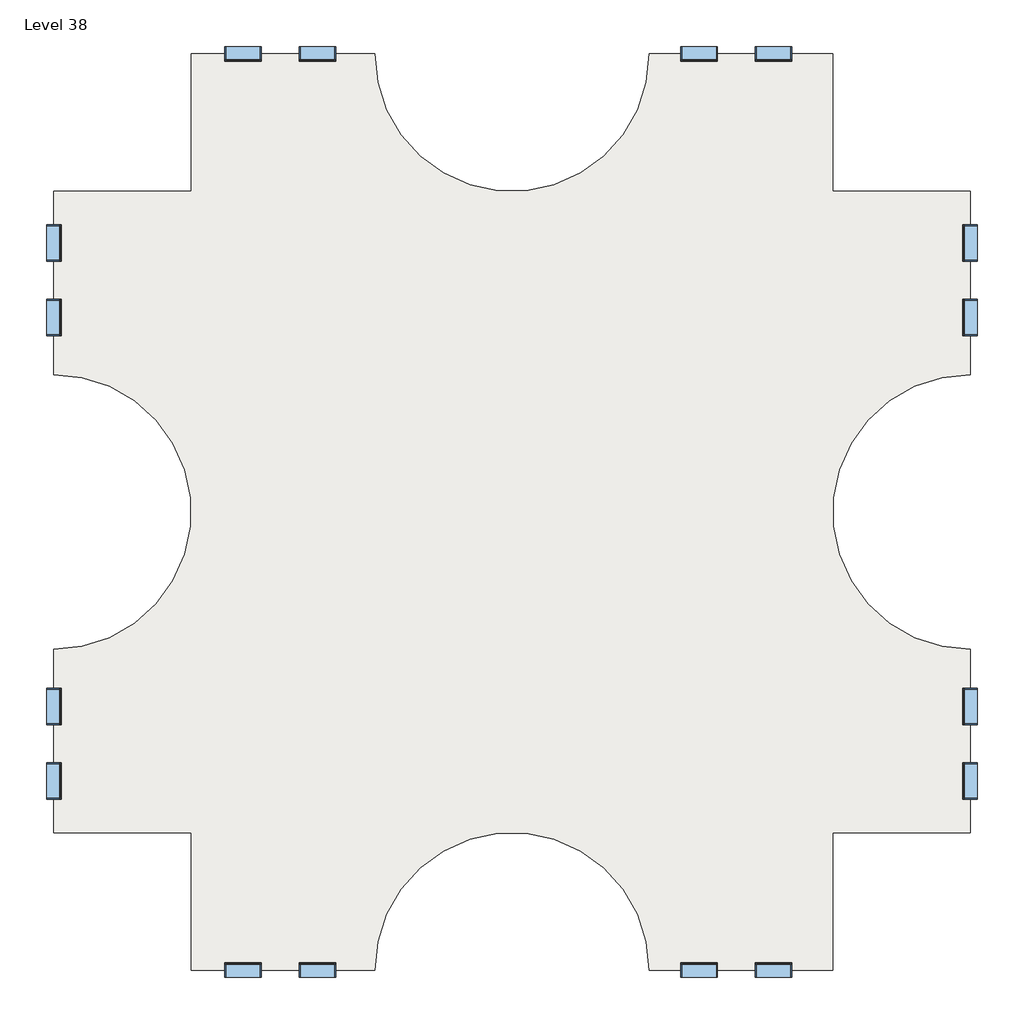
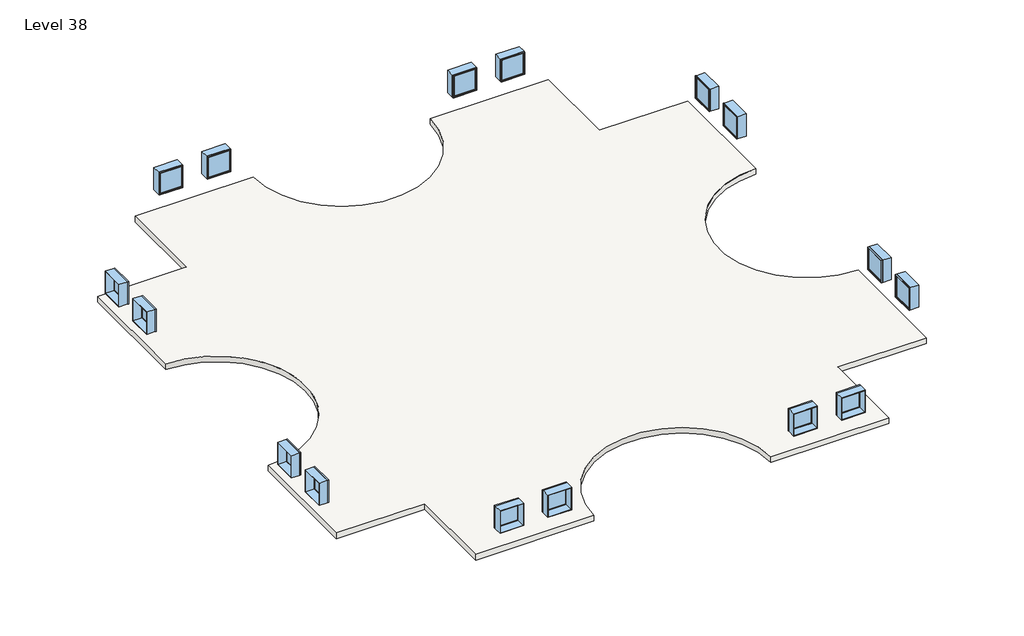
# One storey: 16 windows, 3 slabs.
"""IFC4 building model written with IfcOpenShell, lengths in millimetres."""

import ifcopenshell
import ifcopenshell.guid

model = None  # the IFC model being written
_history = None  # IfcOwnerHistory: only IFC2X3 demands one
_inside = {}  # id of a spatial element -> (the spatial element, [elements in it])
_under = {}  # id of a project, library or spatial element -> (it, [spatial elements below it])
_declared = {}  # id of a project -> (the project, [libraries it declares])
_typed = {}  # id of a type object -> (the type object, [elements of that type])
_made_of = {}  # id of a material, layer set ... -> (it, [elements and type objects made of it])


def new_model(schema):
    """Start an empty IFC model of exactly this schema.

    Asked for "IFC4X3", IfcOpenShell would pick the latest addendum, in which some entities
    have other attributes; the version numbers below select the first issue.
    IFC2X3 requires an IfcOwnerHistory on every rooted entity: one is made here for all.
    """
    global model, _history
    if schema == "IFC4X3":
        model = ifcopenshell.file(schema_version=(4, 3, 0, 0))
    else:
        model = ifcopenshell.file(schema=schema)
    _inside.clear()
    _under.clear()
    _declared.clear()
    _typed.clear()
    _made_of.clear()
    _history = None
    if model.schema == "IFC2X3":
        org = make("IfcOrganization", Name="unknown")
        user = make(
            "IfcPersonAndOrganization",
            ThePerson=make("IfcPerson", FamilyName="unknown"),
            TheOrganization=org,
        )
        app = make(
            "IfcApplication",
            ApplicationDeveloper=org,
            Version="unknown",
            ApplicationFullName="unknown",
            ApplicationIdentifier="unknown",
        )
        _history = make(
            "IfcOwnerHistory",
            OwningUser=user,
            OwningApplication=app,
            ChangeAction="ADDED",
            CreationDate=0,
        )
    return model


def make(cls, **values):
    """One entity of the class cls with the attributes given. An attribute that is None is left unset."""
    return model.create_entity(
        cls, **{name: value for name, value in values.items() if value is not None}
    )


def rooted(cls, **values):
    """An entity with a GlobalId (a new one), such as an element, a storey or a relation."""
    return make(cls, GlobalId=ifcopenshell.guid.new(), OwnerHistory=_history, **values)


def si_unit(unit_type, name, prefix=None):
    """IfcSIUnit, for example si_unit("LENGTHUNIT", "METRE", prefix="MILLI")."""
    return make("IfcSIUnit", UnitType=unit_type, Prefix=prefix, Name=name)


def assignment(units):
    """IfcUnitAssignment: the units of a project."""
    return None if units is None else make("IfcUnitAssignment", Units=units)


def point(xyz):
    """IfcCartesianPoint."""
    return None if xyz is None else make("IfcCartesianPoint", Coordinates=xyz)


def direction(xyz):
    """IfcDirection."""
    return None if xyz is None else make("IfcDirection", DirectionRatios=xyz)


def frame(location, z_axis=None, x_axis=None):
    """IfcAxis2Placement3D, a coordinate frame: its origin and axes. An axis left out is left unset."""
    return make(
        "IfcAxis2Placement3D",
        Location=point(location),
        Axis=direction(z_axis),
        RefDirection=direction(x_axis),
    )


def frame_2d(location, x_axis=None):
    """IfcAxis2Placement2D, a coordinate frame in the plane: its origin and x axis."""
    return make(
        "IfcAxis2Placement2D", Location=point(location), RefDirection=direction(x_axis)
    )


def origin():
    """The frame at (0, 0, 0) with its axes left unset."""
    return frame((0.0, 0.0, 0.0))


def place(relative_to, where):
    """IfcLocalPlacement: puts the frame where relative to a parent placement (None: the world)."""
    return make(
        "IfcLocalPlacement", PlacementRelTo=relative_to, RelativePlacement=where
    )


def context(
    kind, dimensions, precision=None, world=None, true_north=None, identifier=None
):
    """IfcGeometricRepresentationContext, for example the 3D "Model" context."""
    return make(
        "IfcGeometricRepresentationContext",
        ContextIdentifier=identifier,
        ContextType=kind,
        CoordinateSpaceDimension=dimensions,
        Precision=precision,
        WorldCoordinateSystem=world,
        TrueNorth=true_north,
    )


def project(units=None, contexts=None):
    """IfcProject with its units and contexts."""
    return rooted(
        "IfcProject",
        Name="project",
        RepresentationContexts=contexts,
        UnitsInContext=assignment(units),
    )


def spatial(cls, under=None, at=None, **own):
    """A site, building, storey or space (cls), placed at a placement, below another one or the project."""
    s = rooted(cls, ObjectPlacement=at, **own)
    if under is not None:
        _under.setdefault(under.id(), (under, []))[1].append(s)
    return s


def polyline(points):
    """IfcPolyline through the points."""
    return make("IfcPolyline", Points=[point(p) for p in points])


def circle_curve(where, radius):
    """IfcCircle in the frame where."""
    return make("IfcCircle", Position=where, Radius=radius)


def trimmed(basis, trim1, trim2, sense, master):
    """IfcTrimmedCurve: the piece of a basis curve between two trims."""
    return make(
        "IfcTrimmedCurve",
        BasisCurve=basis,
        Trim1=trim1,
        Trim2=trim2,
        SenseAgreement=sense,
        MasterRepresentation=master,
    )


def segment(curve, same_sense, transition):
    """IfcCompositeCurveSegment."""
    return make(
        "IfcCompositeCurveSegment",
        Transition=transition,
        SameSense=same_sense,
        ParentCurve=curve,
    )


def composite_curve(segments, self_intersect=None):
    """IfcCompositeCurve: segments joined end to end."""
    return make("IfcCompositeCurve", Segments=segments, SelfIntersect=self_intersect)


def outline(outer, holes=None, kind="AREA"):
    """IfcArbitraryClosedProfileDef: a profile drawn as a closed curve; with holes, ...WithVoids."""
    if holes is None:
        return make("IfcArbitraryClosedProfileDef", ProfileType=kind, OuterCurve=outer)
    return make(
        "IfcArbitraryProfileDefWithVoids",
        ProfileType=kind,
        OuterCurve=outer,
        InnerCurves=holes,
    )


def extrude(swept, where, along, depth):
    """IfcExtrudedAreaSolid: the profile swept, set in the frame where, extruded along a direction by depth."""
    return make(
        "IfcExtrudedAreaSolid",
        SweptArea=swept,
        Position=where,
        ExtrudedDirection=direction(along),
        Depth=depth,
    )


def shape(context_of_items, identifier, shape_type, items):
    """IfcShapeRepresentation: the items that make up one representation, for example the "Body"."""
    return make(
        "IfcShapeRepresentation",
        ContextOfItems=context_of_items,
        RepresentationIdentifier=identifier,
        RepresentationType=shape_type,
        Items=items,
    )


def source(mapping_origin, context_of_items, identifier, shape_type, items):
    """IfcRepresentationMap: a shape defined once, which mapped items show again and again."""
    return make(
        "IfcRepresentationMap",
        MappingOrigin=mapping_origin,
        MappedRepresentation=shape(context_of_items, identifier, shape_type, items),
    )


def transform(
    local_origin,
    x_axis=None,
    y_axis=None,
    z_axis=None,
    scale=None,
    scale2=None,
    scale3=None,
    uniform=True,
):
    """IfcCartesianTransformationOperator3D, or its non-uniform kind. x_axis, y_axis, z_axis: its Axis1, 2, 3."""
    if uniform:
        return make(
            "IfcCartesianTransformationOperator3D",
            Axis1=direction(x_axis),
            Axis2=direction(y_axis),
            LocalOrigin=point(local_origin),
            Scale=scale,
            Axis3=direction(z_axis),
        )
    return make(
        "IfcCartesianTransformationOperator3DnonUniform",
        Axis1=direction(x_axis),
        Axis2=direction(y_axis),
        LocalOrigin=point(local_origin),
        Scale=scale,
        Axis3=direction(z_axis),
        Scale2=scale2,
        Scale3=scale3,
    )


def mapped(mapping_source, mapping_target):
    """IfcMappedItem: shows the shape of a source again, moved by a transform."""
    return make(
        "IfcMappedItem", MappingSource=mapping_source, MappingTarget=mapping_target
    )


def made_of(thing, what):
    """Note that an element or type object is made of a material, layer set ...; save() writes the relation."""
    if what is not None:
        _made_of.setdefault(what.id(), (what, []))[1].append(thing)
    return thing


def element(
    cls,
    number,
    at=None,
    inside=None,
    cuts=None,
    type_object=None,
    material=None,
    context=None,
    identifier="Body",
    shape_type=None,
    held_by="IfcProductDefinitionShape",
    body=None,
    shapes=None,
    **own,
):
    """One element of the class cls, such as IfcWall. Its Tag is "e" and its number.

    at: its placement. inside: the storey or other place that contains it. cuts: it is an
    opening in that element (IfcRelVoidsElement). A single representation is given by context,
    identifier, shape_type and body (its items); several are given by shapes. held_by: the class
    of the entity that holds the representations. save() writes the other relations.
    """
    e = rooted(cls, Tag="e%d" % number, ObjectPlacement=at, **own)
    if body is not None:
        shapes = [shape(context, identifier, shape_type, body)]
    if shapes is not None:
        e.Representation = make(held_by, Representations=shapes)
    if inside is not None:
        _inside.setdefault(inside.id(), (inside, []))[1].append(e)
    if cuts is not None:
        rooted(
            "IfcRelVoidsElement", RelatingBuildingElement=cuts, RelatedOpeningElement=e
        )
    if type_object is not None:
        _typed.setdefault(type_object.id(), (type_object, []))[1].append(e)
    return made_of(e, material)


def aggregate(whole, parts):
    """IfcRelAggregates: a whole, such as a stair, and the parts it consists of."""
    return rooted("IfcRelAggregates", RelatingObject=whole, RelatedObjects=parts)


def save(model, path):
    """Write the relations noted so far, then the file.

    IfcRelAggregates (storeys below a building ...), IfcRelContainedInSpatialStructure (elements
    in a storey), IfcRelDefinesByType, IfcRelAssociatesMaterial and IfcRelDeclares: one each for
    every whole, place, type object, material and project.
    """
    for whole, parts in _under.values():
        aggregate(whole, parts)
    for where, things in _inside.values():
        rooted(
            "IfcRelContainedInSpatialStructure",
            RelatedElements=things,
            RelatingStructure=where,
        )
    for kind, things in _typed.values():
        rooted("IfcRelDefinesByType", RelatedObjects=things, RelatingType=kind)
    for what, things in _made_of.values():
        rooted("IfcRelAssociatesMaterial", RelatedObjects=things, RelatingMaterial=what)
    for by, libraries in _declared.values():
        rooted("IfcRelDeclares", RelatingContext=by, RelatedDefinitions=libraries)
    model.write(path)


def window_d0035ecf(model_context):
    return source(origin(), model_context, "Body", "SweptSolid", [
        extrude(outline(polyline([(508.0, 200.025), (-584.2, 200.025), (-584.2, 212.725), (508.0, 212.725), (508.0, 200.025)])), frame((0.0, 0.0, 977.9), z_axis=(0.0, 0.0, 1.0), x_axis=(1.0, 0.0, 0.0)), (0.0, 0.0, 1.0), 1092.2),
        extrude(outline(polyline([(2114.55, -628.65), (933.45, -628.65), (933.45, 552.45), (2114.55, 552.45), (2114.55, -628.65)]), holes=[polyline([(2070.1, -584.2), (2070.1, 508.0), (977.9, 508.0), (977.9, -584.2), (2070.1, -584.2)])]), frame((0.0, 184.15, 0.0), z_axis=(0.0, 1.0, 0.0), x_axis=(0.0, 0.0, 1.0)), (0.0, 0.0, 1.0), 44.45),
        extrude(outline(polyline([(2133.6, -647.7), (914.4, -647.7), (914.4, 571.5), (2133.6, 571.5), (2133.6, -647.7)]), holes=[polyline([(2101.85, -615.95), (2101.85, 539.75), (946.15, 539.75), (946.15, -615.95), (2101.85, -615.95)])]), frame((0.0, -247.65, 0.0), z_axis=(0.0, 1.0, 0.0), x_axis=(0.0, 0.0, 1.0)), (0.0, 0.0, 1.0), 431.8),
        extrude(outline(polyline([(2133.6, 571.5), (2133.6, -647.7), (914.4, -647.7), (914.4, 571.5), (2133.6, 571.5)]), holes=[polyline([(2114.55, 552.45), (933.45, 552.45), (933.45, -628.65), (2114.55, -628.65), (2114.55, 552.45)])]), frame((0.0, 184.15, 0.0), z_axis=(0.0, 1.0, 0.0), x_axis=(0.0, 0.0, 1.0)), (0.0, 0.0, 1.0), 63.5),
    ])


def window_d434eb62(model_context):
    return source(origin(), model_context, "Body", "SweptSolid", [
        extrude(outline(polyline([(508.0, -200.025), (508.0, -212.725), (-584.2, -212.725), (-584.2, -200.025), (508.0, -200.025)])), frame((0.0, 0.0, 977.9), z_axis=(0.0, 0.0, 1.0), x_axis=(1.0, 0.0, 0.0)), (0.0, 0.0, 1.0), 1092.2),
        extrude(outline(polyline([(2114.55, -628.65), (933.45, -628.65), (933.45, 552.45), (2114.55, 552.45), (2114.55, -628.65)]), holes=[polyline([(2070.1, -584.2), (2070.1, 508.0), (977.9, 508.0), (977.9, -584.2), (2070.1, -584.2)])]), frame((0.0, -228.6, 0.0), z_axis=(0.0, 1.0, 0.0), x_axis=(0.0, 0.0, 1.0)), (0.0, 0.0, 1.0), 44.45),
        extrude(outline(polyline([(2133.6, -647.7), (914.4, -647.7), (914.4, 571.5), (2133.6, 571.5), (2133.6, -647.7)]), holes=[polyline([(2101.85, -615.95), (2101.85, 539.75), (946.15, 539.75), (946.15, -615.95), (2101.85, -615.95)])]), frame((0.0, -184.15, 0.0), z_axis=(0.0, 1.0, 0.0), x_axis=(0.0, 0.0, 1.0)), (0.0, 0.0, 1.0), 431.8),
        extrude(outline(polyline([(2133.6, 571.5), (2133.6, -647.7), (914.4, -647.7), (914.4, 571.5), (2133.6, 571.5)]), holes=[polyline([(2114.55, 552.45), (933.45, 552.45), (933.45, -628.65), (2114.55, -628.65), (2114.55, 552.45)])]), frame((0.0, -247.65, 0.0), z_axis=(0.0, 1.0, 0.0), x_axis=(0.0, 0.0, 1.0)), (0.0, 0.0, 1.0), 63.5),
    ])


model = new_model("IFC4")

# Units and contexts
model_context = context("Model", 3, world=origin())
ifc_project = project(units=[si_unit("LENGTHUNIT", "METRE", prefix="MILLI")], contexts=[model_context])

# Site, building, storey
site = spatial("IfcSite", under=ifc_project)
building = spatial("IfcBuilding", under=site)
storey = spatial("IfcBuildingStorey", under=building, Name="Level 38", Elevation=112776.0)

# Slabs
placement = place(None, origin())
element("IfcSlab", 1, ObjectType="Generic - 12\"", at=placement, inside=storey, context=model_context, shape_type="SweptSolid", body=[
    extrude(outline(composite_curve([segment(polyline([(-7150.3629456, 4479.6634547), (-7150.3629456, 9051.6634547), (-1054.3629456, 9051.6634547)]), True, "CONTINUOUS"), segment(trimmed(circle_curve(frame_2d((3517.6370544, 9051.6634547)), 4572.0), [point((-1054.3629456, 9051.6634547))], [point((8089.6370544, 9051.6634547))], True, "CARTESIAN"), True, "CONTINUOUS"), segment(polyline([(8089.6370544, 9051.6634547), (14185.6370544, 9051.6634547), (14185.6370544, 4479.6634547), (18757.6370544, 4479.6634547), (18757.6370544, -1616.3365453)]), True, "CONTINUOUS"), segment(trimmed(circle_curve(frame_2d((18757.6370544, -6188.3365453)), 4572.0), [point((18757.6370544, -1616.3365453))], [point((18757.6370544, -10760.3365453))], True, "CARTESIAN"), True, "CONTINUOUS"), segment(polyline([(18757.6370544, -10760.3365453), (18757.6370544, -16856.3365453), (14185.6370544, -16856.3365453), (14185.6370544, -21428.3365453), (8089.6370544, -21428.3365453)]), True, "CONTINUOUS"), segment(trimmed(circle_curve(frame_2d((3517.6370544, -21428.3365453)), 4572.0), [point((8089.6370544, -21428.3365453))], [point((-1054.3629456, -21428.3365453))], True, "CARTESIAN"), True, "CONTINUOUS"), segment(polyline([(-1054.3629456, -21428.3365453), (-7150.3629456, -21428.3365453), (-7150.3629456, -16856.3365453), (-11722.3629456, -16856.3365453), (-11722.3629456, -10760.3365453)]), True, "CONTINUOUS"), segment(trimmed(circle_curve(frame_2d((-11722.3629456, -6188.3365453)), 4572.0), [point((-11722.3629456, -10760.3365453))], [point((-11722.3629456, -1616.3365453))], True, "CARTESIAN"), True, "CONTINUOUS"), segment(polyline([(-11722.3629456, -1616.3365453), (-11722.3629456, 4479.6634547), (-7150.3629456, 4479.6634547)]), True, "CONTINUOUS")], self_intersect=False)), frame((0.0, 0.0, 112471.2), z_axis=(0.0, 0.0, 1.0), x_axis=(1.0, 0.0, 0.0)), (0.0, 0.0, 1.0), 304.8),
])
element("IfcSlab", 2, ObjectType="Generic - 12\"", at=placement, inside=storey, context=model_context, shape_type="SweptSolid", body=[
    extrude(outline(composite_curve([segment(polyline([(-7150.3629456, 4479.6634547), (-7150.3629456, 9051.6634547), (-1054.3629456, 9051.6634547)]), True, "CONTINUOUS"), segment(trimmed(circle_curve(frame_2d((3517.6370544, 9051.6634547)), 4572.0), [point((-1054.3629456, 9051.6634547))], [point((8089.6370544, 9051.6634547))], True, "CARTESIAN"), True, "CONTINUOUS"), segment(polyline([(8089.6370544, 9051.6634547), (14185.6370544, 9051.6634547), (14185.6370544, 4479.6634547), (18757.6370544, 4479.6634547), (18757.6370544, -1616.3365453)]), True, "CONTINUOUS"), segment(trimmed(circle_curve(frame_2d((18757.6370544, -6188.3365453)), 4572.0), [point((18757.6370544, -1616.3365453))], [point((18757.6370544, -10760.3365453))], True, "CARTESIAN"), True, "CONTINUOUS"), segment(polyline([(18757.6370544, -10760.3365453), (18757.6370544, -16856.3365453), (14185.6370544, -16856.3365453), (14185.6370544, -21428.3365453), (8089.6370544, -21428.3365453)]), True, "CONTINUOUS"), segment(trimmed(circle_curve(frame_2d((3517.6370544, -21428.3365453)), 4572.0), [point((8089.6370544, -21428.3365453))], [point((-1054.3629456, -21428.3365453))], True, "CARTESIAN"), True, "CONTINUOUS"), segment(polyline([(-1054.3629456, -21428.3365453), (-7150.3629456, -21428.3365453), (-7150.3629456, -16856.3365453), (-11722.3629456, -16856.3365453), (-11722.3629456, -10760.3365453)]), True, "CONTINUOUS"), segment(trimmed(circle_curve(frame_2d((-11722.3629456, -6188.3365453)), 4572.0), [point((-11722.3629456, -10760.3365453))], [point((-11722.3629456, -1616.3365453))], True, "CARTESIAN"), True, "CONTINUOUS"), segment(polyline([(-11722.3629456, -1616.3365453), (-11722.3629456, 4479.6634547), (-7150.3629456, 4479.6634547)]), True, "CONTINUOUS")], self_intersect=False)), frame((0.0, 0.0, 112471.2), z_axis=(0.0, 0.0, 1.0), x_axis=(1.0, 0.0, 0.0)), (0.0, 0.0, 1.0), 304.8),
])
element("IfcSlab", 3, ObjectType="Generic - 12\"", at=placement, inside=storey, context=model_context, shape_type="SweptSolid", body=[
    extrude(outline(composite_curve([segment(polyline([(-7150.3629456, 4479.6634547), (-7150.3629456, 9051.6634547), (-1054.3629456, 9051.6634547)]), True, "CONTINUOUS"), segment(trimmed(circle_curve(frame_2d((3517.6370544, 9051.6634547)), 4572.0), [point((-1054.3629456, 9051.6634547))], [point((8089.6370544, 9051.6634547))], True, "CARTESIAN"), True, "CONTINUOUS"), segment(polyline([(8089.6370544, 9051.6634547), (14185.6370544, 9051.6634547), (14185.6370544, 4479.6634547), (18757.6370544, 4479.6634547), (18757.6370544, -1616.3365453)]), True, "CONTINUOUS"), segment(trimmed(circle_curve(frame_2d((18757.6370544, -6188.3365453)), 4572.0), [point((18757.6370544, -1616.3365453))], [point((18757.6370544, -10760.3365453))], True, "CARTESIAN"), True, "CONTINUOUS"), segment(polyline([(18757.6370544, -10760.3365453), (18757.6370544, -16856.3365453), (14185.6370544, -16856.3365453), (14185.6370544, -21428.3365453), (8089.6370544, -21428.3365453)]), True, "CONTINUOUS"), segment(trimmed(circle_curve(frame_2d((3517.6370544, -21428.3365453)), 4572.0), [point((8089.6370544, -21428.3365453))], [point((-1054.3629456, -21428.3365453))], True, "CARTESIAN"), True, "CONTINUOUS"), segment(polyline([(-1054.3629456, -21428.3365453), (-7150.3629456, -21428.3365453), (-7150.3629456, -16856.3365453), (-11722.3629456, -16856.3365453), (-11722.3629456, -10760.3365453)]), True, "CONTINUOUS"), segment(trimmed(circle_curve(frame_2d((-11722.3629456, -6188.3365453)), 4572.0), [point((-11722.3629456, -10760.3365453))], [point((-11722.3629456, -1616.3365453))], True, "CARTESIAN"), True, "CONTINUOUS"), segment(polyline([(-11722.3629456, -1616.3365453), (-11722.3629456, 4479.6634547), (-7150.3629456, 4479.6634547)]), True, "CONTINUOUS")], self_intersect=False)), frame((0.0, 0.0, 112471.2), z_axis=(0.0, 0.0, 1.0), x_axis=(1.0, 0.0, 0.0)), (0.0, 0.0, 1.0), 304.8),
])

# Windows
window_shape = window_d0035ecf(model_context)
element("IfcWindow", 4, ObjectType="Fixed : 48\" x 48\"", at=placement, inside=storey, context=model_context, shape_type="MappedRepresentation", body=[
    mapped(window_shape, transform((-11719.1879456, 247.3884547, 112776.0), x_axis=(0.0, -1.0, 0.0), y_axis=(1.0, 0.0, 0.0), z_axis=(0.0, 0.0, 1.0))),
])
element("IfcWindow", 5, ObjectType="Fixed : 48\" x 48\"", at=placement, inside=storey, context=model_context, shape_type="MappedRepresentation", body=[
    mapped(window_shape, transform((-5469.1993281, 9048.4884547, 112776.0), x_axis=(-1.0, 0.0, 0.0), y_axis=(0.0, -1.0, 0.0), z_axis=(0.0, 0.0, 1.0))),
])
element("IfcWindow", 6, ObjectType="Fixed : 48\" x 48\"", at=placement, inside=storey, context=model_context, shape_type="MappedRepresentation", body=[
    mapped(window_shape, transform((-11719.1879456, -15175.1729277, 112776.0), x_axis=(0.0, -1.0, 0.0), y_axis=(1.0, 0.0, 0.0), z_axis=(0.0, 0.0, 1.0))),
])
element("IfcWindow", 7, ObjectType="Fixed : 48\" x 48\"", at=placement, inside=storey, context=model_context, shape_type="MappedRepresentation", body=[
    mapped(window_shape, transform((-2918.0879456, -21425.1615453, 112776.0), x_axis=(1.0, 0.0, 0.0), y_axis=(0.0, 1.0, 0.0), z_axis=(0.0, 0.0, 1.0))),
])
element("IfcWindow", 8, ObjectType="Fixed : 48\" x 48\"", at=placement, inside=storey, context=model_context, shape_type="MappedRepresentation", body=[
    mapped(window_shape, transform((18754.4620544, 2798.4998372, 112776.0), x_axis=(0.0, 1.0, 0.0), y_axis=(-1.0, 0.0, 0.0), z_axis=(0.0, 0.0, 1.0))),
])
element("IfcWindow", 9, ObjectType="Fixed : 48\" x 48\"", at=placement, inside=storey, context=model_context, shape_type="MappedRepresentation", body=[
    mapped(window_shape, transform((9705.7120544, 9048.4884547, 112776.0), x_axis=(-1.0, 0.0, 0.0), y_axis=(0.0, -1.0, 0.0), z_axis=(0.0, 0.0, 1.0))),
])
element("IfcWindow", 10, ObjectType="Fixed : 48\" x 48\"", at=placement, inside=storey, context=model_context, shape_type="MappedRepresentation", body=[
    mapped(window_shape, transform((18754.4620544, -12624.0615453, 112776.0), x_axis=(0.0, 1.0, 0.0), y_axis=(-1.0, 0.0, 0.0), z_axis=(0.0, 0.0, 1.0))),
])
element("IfcWindow", 11, ObjectType="Fixed : 48\" x 48\"", at=placement, inside=storey, context=model_context, shape_type="MappedRepresentation", body=[
    mapped(window_shape, transform((12256.8234368, -21425.1615453, 112776.0), x_axis=(1.0, 0.0, 0.0), y_axis=(0.0, 1.0, 0.0), z_axis=(0.0, 0.0, 1.0))),
])
window_2_shape = window_d434eb62(model_context)
element("IfcWindow", 12, ObjectType="Fixed : 48\" x 48\"", at=placement, inside=storey, context=model_context, shape_type="MappedRepresentation", body=[
    mapped(window_2_shape, transform((-11719.1879456, 2798.4998372, 112776.0), x_axis=(0.0, 1.0, 0.0), y_axis=(-1.0, 0.0, 0.0), z_axis=(0.0, 0.0, 1.0))),
])
element("IfcWindow", 13, ObjectType="Fixed : 48\" x 48\"", at=placement, inside=storey, context=model_context, shape_type="MappedRepresentation", body=[
    mapped(window_2_shape, transform((-2918.0879456, 9048.4884547, 112776.0), x_axis=(1.0, 0.0, 0.0), y_axis=(0.0, 1.0, 0.0), z_axis=(0.0, 0.0, 1.0))),
])
element("IfcWindow", 14, ObjectType="Fixed : 48\" x 48\"", at=placement, inside=storey, context=model_context, shape_type="MappedRepresentation", body=[
    mapped(window_2_shape, transform((-11719.1879456, -12624.0615453, 112776.0), x_axis=(0.0, 1.0, 0.0), y_axis=(-1.0, 0.0, 0.0), z_axis=(0.0, 0.0, 1.0))),
])
element("IfcWindow", 15, ObjectType="Fixed : 48\" x 48\"", at=placement, inside=storey, context=model_context, shape_type="MappedRepresentation", body=[
    mapped(window_2_shape, transform((-5469.1993281, -21425.1615453, 112776.0), x_axis=(-1.0, 0.0, 0.0), y_axis=(0.0, -1.0, 0.0), z_axis=(0.0, 0.0, 1.0))),
])
element("IfcWindow", 16, ObjectType="Fixed : 48\" x 48\"", at=placement, inside=storey, context=model_context, shape_type="MappedRepresentation", body=[
    mapped(window_2_shape, transform((18754.4620544, 247.3884547, 112776.0), x_axis=(0.0, -1.0, 0.0), y_axis=(1.0, 0.0, 0.0), z_axis=(0.0, 0.0, 1.0))),
])
element("IfcWindow", 17, ObjectType="Fixed : 48\" x 48\"", at=placement, inside=storey, context=model_context, shape_type="MappedRepresentation", body=[
    mapped(window_2_shape, transform((12256.8234368, 9048.4884547, 112776.0), x_axis=(1.0, 0.0, 0.0), y_axis=(0.0, 1.0, 0.0), z_axis=(0.0, 0.0, 1.0))),
])
element("IfcWindow", 18, ObjectType="Fixed : 48\" x 48\"", at=placement, inside=storey, context=model_context, shape_type="MappedRepresentation", body=[
    mapped(window_2_shape, transform((18754.4620544, -15175.1729277, 112776.0), x_axis=(0.0, -1.0, 0.0), y_axis=(1.0, 0.0, 0.0), z_axis=(0.0, 0.0, 1.0))),
])
element("IfcWindow", 19, ObjectType="Fixed : 48\" x 48\"", at=placement, inside=storey, context=model_context, shape_type="MappedRepresentation", body=[
    mapped(window_2_shape, transform((9705.7120544, -21425.1615453, 112776.0), x_axis=(-1.0, 0.0, 0.0), y_axis=(0.0, -1.0, 0.0), z_axis=(0.0, 0.0, 1.0))),
])

save(model, "model.ifc")
